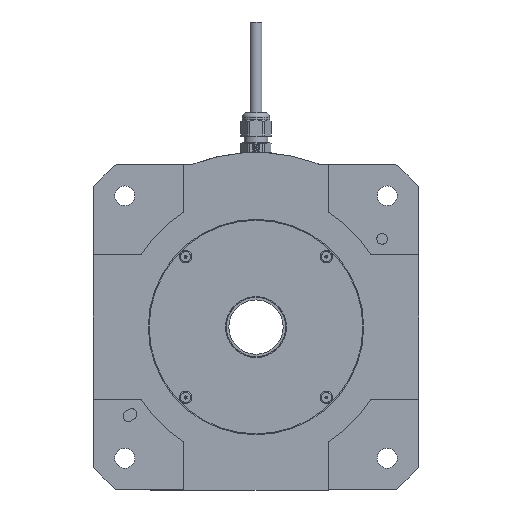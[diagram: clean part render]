
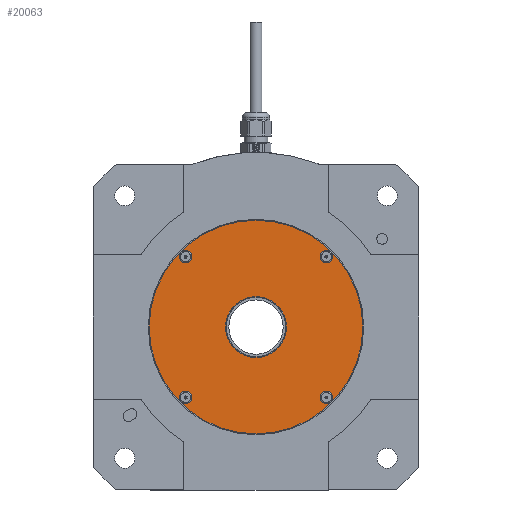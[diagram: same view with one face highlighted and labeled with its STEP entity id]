
A CAD part, front view. The second image highlights one B-rep face of the part: STEP entity #20063.
In plain terms, the highlighted planar face has unit normal (0, -1, 0).
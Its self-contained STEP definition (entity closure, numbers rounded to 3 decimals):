
#63 = CARTESIAN_POINT ( 'NONE',  ( 0., 1.5, 0. ) ) ;
#129 = CARTESIAN_POINT ( 'NONE',  ( 38.891, 1.5, -38.891 ) ) ;
#183 = EDGE_CURVE ( 'NONE', #231, #12629, #7590, .T. ) ;
#231 = VERTEX_POINT ( 'NONE', #5315 ) ;
#282 = EDGE_LOOP ( 'NONE', ( #17890, #13130 ) ) ;
#369 = FACE_BOUND ( 'NONE', #11337, .T. ) ;
#621 = DIRECTION ( 'NONE',  ( 0., 1., 0. ) ) ;
#865 = ORIENTED_EDGE ( 'NONE', *, *, #17147, .T. ) ;
#889 = AXIS2_PLACEMENT_3D ( 'NONE', #13060, #7440, #1301 ) ;
#965 = CARTESIAN_POINT ( 'NONE',  ( -38.891, 1.5, -38.891 ) ) ;
#1301 = DIRECTION ( 'NONE',  ( 1., 0., 0. ) ) ;
#1362 = EDGE_LOOP ( 'NONE', ( #865, #15924 ) ) ;
#1933 = DIRECTION ( 'NONE',  ( 1., 0., 0. ) ) ;
#2604 = DIRECTION ( 'NONE',  ( 0., 1., 0. ) ) ;
#2679 = VERTEX_POINT ( 'NONE', #14051 ) ;
#2714 = FACE_BOUND ( 'NONE', #1362, .T. ) ;
#2793 = CARTESIAN_POINT ( 'NONE',  ( -40.891, 1.5, -38.891 ) ) ;
#2915 = DIRECTION ( 'NONE',  ( 1., 0., 0. ) ) ;
#3237 = CARTESIAN_POINT ( 'NONE',  ( -38.891, 1.5, -38.891 ) ) ;
#3604 = DIRECTION ( 'NONE',  ( 1., 0., 0. ) ) ;
#3625 = CARTESIAN_POINT ( 'NONE',  ( 16.8, 1.5, 0. ) ) ;
#3780 = VERTEX_POINT ( 'NONE', #17475 ) ;
#4048 = AXIS2_PLACEMENT_3D ( 'NONE', #10274, #7942, #12232 ) ;
#4214 = ORIENTED_EDGE ( 'NONE', *, *, #11956, .T. ) ;
#4417 = FACE_BOUND ( 'NONE', #12279, .T. ) ;
#4877 = DIRECTION ( 'NONE',  ( 1., 0., 0. ) ) ;
#5315 = CARTESIAN_POINT ( 'NONE',  ( 59., 1.5, 0. ) ) ;
#5460 = DIRECTION ( 'NONE',  ( 1., 0., 0. ) ) ;
#5586 = AXIS2_PLACEMENT_3D ( 'NONE', #25881, #14682, #1933 ) ;
#6142 = DIRECTION ( 'NONE',  ( 1., 0., 0. ) ) ;
#7236 = DIRECTION ( 'NONE',  ( 0., 1., 0. ) ) ;
#7440 = DIRECTION ( 'NONE',  ( 0., 1., 0. ) ) ;
#7563 = EDGE_LOOP ( 'NONE', ( #8372, #24801 ) ) ;
#7590 = CIRCLE ( 'NONE', #23488, 59. ) ;
#7707 = VERTEX_POINT ( 'NONE', #17798 ) ;
#7942 = DIRECTION ( 'NONE',  ( 0., 1., 0. ) ) ;
#7978 = CARTESIAN_POINT ( 'NONE',  ( 36.891, 1.5, -38.891 ) ) ;
#8036 = DIRECTION ( 'NONE',  ( 0., 1., 0. ) ) ;
#8343 = FACE_BOUND ( 'NONE', #282, .T. ) ;
#8372 = ORIENTED_EDGE ( 'NONE', *, *, #19812, .F. ) ;
#8553 = AXIS2_PLACEMENT_3D ( 'NONE', #63, #8036, #25453 ) ;
#8570 = AXIS2_PLACEMENT_3D ( 'NONE', #129, #17644, #6142 ) ;
#8715 = VERTEX_POINT ( 'NONE', #13847 ) ;
#9034 = CARTESIAN_POINT ( 'NONE',  ( 38.891, 1.5, -38.891 ) ) ;
#9427 = CIRCLE ( 'NONE', #10257, 2. ) ;
#10257 = AXIS2_PLACEMENT_3D ( 'NONE', #965, #13123, #4877 ) ;
#10274 = CARTESIAN_POINT ( 'NONE',  ( 38.891, 1.5, 38.891 ) ) ;
#10601 = EDGE_CURVE ( 'NONE', #25349, #13405, #19416, .T. ) ;
#10843 = DIRECTION ( 'NONE',  ( 0., 1., 0. ) ) ;
#10975 = EDGE_CURVE ( 'NONE', #8715, #14102, #19855, .T. ) ;
#11013 = CARTESIAN_POINT ( 'NONE',  ( 0., 1.5, 0. ) ) ;
#11308 = VERTEX_POINT ( 'NONE', #24047 ) ;
#11337 = EDGE_LOOP ( 'NONE', ( #19995, #20673 ) ) ;
#11349 = VERTEX_POINT ( 'NONE', #17876 ) ;
#11956 = EDGE_CURVE ( 'NONE', #13405, #25349, #25408, .T. ) ;
#12111 = CIRCLE ( 'NONE', #14199, 2. ) ;
#12232 = DIRECTION ( 'NONE',  ( 1., 0., 0. ) ) ;
#12279 = EDGE_LOOP ( 'NONE', ( #4214, #20110 ) ) ;
#12629 = VERTEX_POINT ( 'NONE', #13623 ) ;
#12651 = CARTESIAN_POINT ( 'NONE',  ( 38.891, 1.5, 38.891 ) ) ;
#12785 = DIRECTION ( 'NONE',  ( 1., 0., 0. ) ) ;
#13060 = CARTESIAN_POINT ( 'NONE',  ( 0., 1.5, 0. ) ) ;
#13123 = DIRECTION ( 'NONE',  ( 0., 1., 0. ) ) ;
#13130 = ORIENTED_EDGE ( 'NONE', *, *, #22965, .T. ) ;
#13405 = VERTEX_POINT ( 'NONE', #22173 ) ;
#13623 = CARTESIAN_POINT ( 'NONE',  ( -59., 1.5, 0. ) ) ;
#13847 = CARTESIAN_POINT ( 'NONE',  ( 40.891, 1.5, -38.891 ) ) ;
#13867 = EDGE_CURVE ( 'NONE', #14102, #8715, #12111, .T. ) ;
#14051 = CARTESIAN_POINT ( 'NONE',  ( -36.891, 1.5, 38.891 ) ) ;
#14102 = VERTEX_POINT ( 'NONE', #7978 ) ;
#14113 = AXIS2_PLACEMENT_3D ( 'NONE', #11013, #7236, #2915 ) ;
#14199 = AXIS2_PLACEMENT_3D ( 'NONE', #9034, #10843, #16499 ) ;
#14234 = FACE_OUTER_BOUND ( 'NONE', #7563, .T. ) ;
#14481 = EDGE_CURVE ( 'NONE', #7707, #11308, #20749, .T. ) ;
#14669 = ORIENTED_EDGE ( 'NONE', *, *, #15512, .T. ) ;
#14682 = DIRECTION ( 'NONE',  ( 0., 1., 0. ) ) ;
#15512 = EDGE_CURVE ( 'NONE', #3780, #23224, #24566, .T. ) ;
#15876 = AXIS2_PLACEMENT_3D ( 'NONE', #18018, #621, #20364 ) ;
#15924 = ORIENTED_EDGE ( 'NONE', *, *, #14481, .T. ) ;
#16315 = DIRECTION ( 'NONE',  ( 0., 1., 0. ) ) ;
#16499 = DIRECTION ( 'NONE',  ( 1., 0., 0. ) ) ;
#16866 = CIRCLE ( 'NONE', #5586, 2. ) ;
#17147 = EDGE_CURVE ( 'NONE', #11308, #7707, #20856, .T. ) ;
#17470 = CARTESIAN_POINT ( 'NONE',  ( 0., 1.5, 0. ) ) ;
#17475 = CARTESIAN_POINT ( 'NONE',  ( -36.891, 1.5, -38.891 ) ) ;
#17487 = DIRECTION ( 'NONE',  ( 0., 1., 0. ) ) ;
#17644 = DIRECTION ( 'NONE',  ( 0., 1., 0. ) ) ;
#17798 = CARTESIAN_POINT ( 'NONE',  ( 36.891, 1.5, 38.891 ) ) ;
#17876 = CARTESIAN_POINT ( 'NONE',  ( -40.891, 1.5, 38.891 ) ) ;
#17890 = ORIENTED_EDGE ( 'NONE', *, *, #25521, .T. ) ;
#18012 = CIRCLE ( 'NONE', #889, 59. ) ;
#18018 = CARTESIAN_POINT ( 'NONE',  ( -38.891, 1.5, 38.891 ) ) ;
#18411 = PLANE ( 'NONE',  #18867 ) ;
#18867 = AXIS2_PLACEMENT_3D ( 'NONE', #20248, #16315, #24323 ) ;
#19212 = CIRCLE ( 'NONE', #15876, 2. ) ;
#19416 = CIRCLE ( 'NONE', #8553, 16.8 ) ;
#19716 = ORIENTED_EDGE ( 'NONE', *, *, #23360, .T. ) ;
#19812 = EDGE_CURVE ( 'NONE', #12629, #231, #18012, .T. ) ;
#19855 = CIRCLE ( 'NONE', #8570, 2. ) ;
#19995 = ORIENTED_EDGE ( 'NONE', *, *, #10975, .T. ) ;
#20063 = ADVANCED_FACE ( 'NONE', ( #369, #20623, #8343, #2714, #14234, #4417 ), #18411, .F. ) ;
#20110 = ORIENTED_EDGE ( 'NONE', *, *, #10601, .T. ) ;
#20248 = CARTESIAN_POINT ( 'NONE',  ( 0., 1.5, 0. ) ) ;
#20364 = DIRECTION ( 'NONE',  ( 1., 0., 0. ) ) ;
#20623 = FACE_BOUND ( 'NONE', #24666, .T. ) ;
#20673 = ORIENTED_EDGE ( 'NONE', *, *, #13867, .T. ) ;
#20749 = CIRCLE ( 'NONE', #4048, 2. ) ;
#20856 = CIRCLE ( 'NONE', #24241, 2. ) ;
#21539 = DIRECTION ( 'NONE',  ( 0., 1., 0. ) ) ;
#22173 = CARTESIAN_POINT ( 'NONE',  ( -16.8, 1.5, 0. ) ) ;
#22469 = AXIS2_PLACEMENT_3D ( 'NONE', #3237, #17487, #5460 ) ;
#22965 = EDGE_CURVE ( 'NONE', #11349, #2679, #16866, .T. ) ;
#23224 = VERTEX_POINT ( 'NONE', #2793 ) ;
#23360 = EDGE_CURVE ( 'NONE', #23224, #3780, #9427, .T. ) ;
#23488 = AXIS2_PLACEMENT_3D ( 'NONE', #17470, #21539, #3604 ) ;
#24047 = CARTESIAN_POINT ( 'NONE',  ( 40.891, 1.5, 38.891 ) ) ;
#24241 = AXIS2_PLACEMENT_3D ( 'NONE', #12651, #2604, #12785 ) ;
#24323 = DIRECTION ( 'NONE',  ( 1., 0., 0. ) ) ;
#24566 = CIRCLE ( 'NONE', #22469, 2. ) ;
#24666 = EDGE_LOOP ( 'NONE', ( #14669, #19716 ) ) ;
#24801 = ORIENTED_EDGE ( 'NONE', *, *, #183, .F. ) ;
#25349 = VERTEX_POINT ( 'NONE', #3625 ) ;
#25408 = CIRCLE ( 'NONE', #14113, 16.8 ) ;
#25453 = DIRECTION ( 'NONE',  ( 1., 0., 0. ) ) ;
#25521 = EDGE_CURVE ( 'NONE', #2679, #11349, #19212, .T. ) ;
#25881 = CARTESIAN_POINT ( 'NONE',  ( -38.891, 1.5, 38.891 ) ) ;
